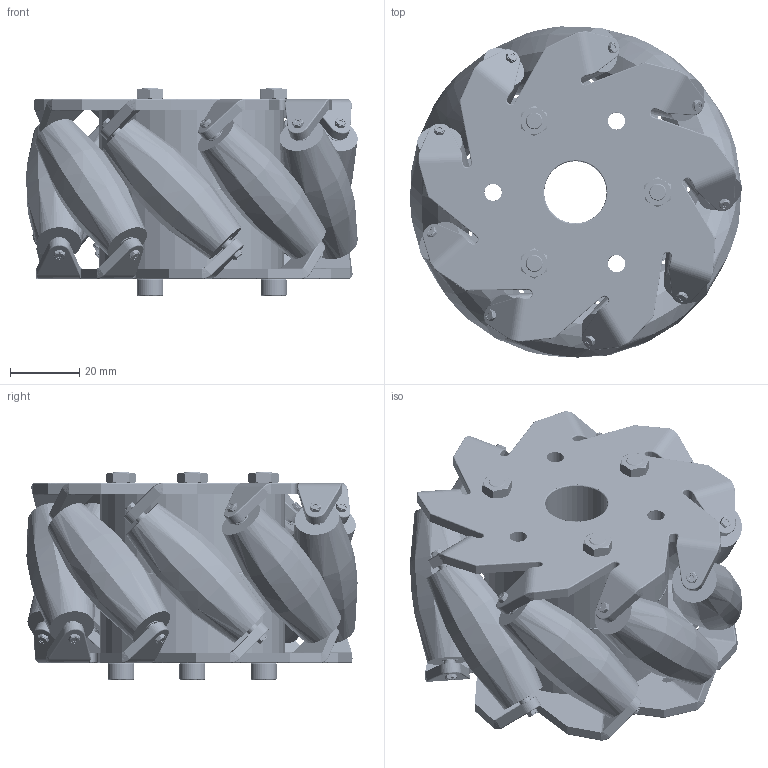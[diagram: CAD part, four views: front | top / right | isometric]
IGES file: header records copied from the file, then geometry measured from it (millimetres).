
Start section: SolidWorks IGES file using analytic representation for surfaces
Global section: file name: C:\Users\Sanyog\Desktop\Mecanum Wheel\Mecanum.IGS; native system: SolidWorks 2018; preprocessor: SolidWorks 2018; author: Sanyog; date: 190413.213104; units: millimetre
Bounding box: 95.63 x 95.55 x 60 mm (x, y, z)
Surface area: 78331.2 mm2 (no closed solid volume)
Topology: 0 solids, 0 shells, 2889 faces, 43621 edges, 43621 vertices
Faces by surface type: revolution 1609, bspline 1280
